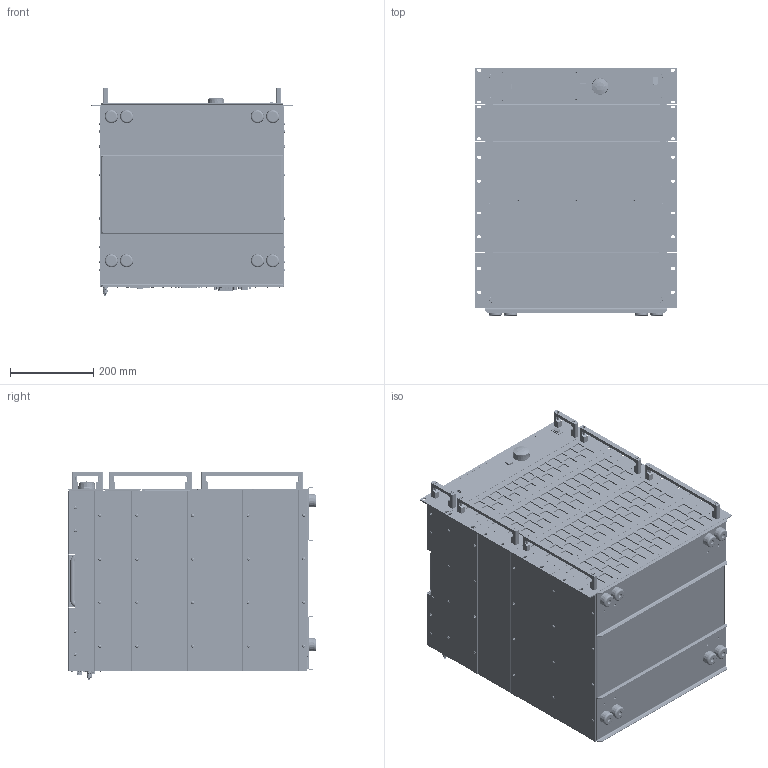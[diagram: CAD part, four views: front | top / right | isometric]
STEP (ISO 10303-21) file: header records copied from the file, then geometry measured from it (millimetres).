
FILE_DESCRIPTION(('STEP AP214'),'1');
FILE_NAME('ACL_M11_19Z_13HE_PH3_15_ST125_BRA_3D_02.step','2020-02-20T10:03:56',(' '),(' '),'Spatial InterOp 3D',' ',' ');
FILE_SCHEMA(('AUTOMOTIVE_DESIGN { 1 0 10303 214 1 1 1 1 }'));
Length unit declared in the file: millimetre
Products named in the file (27): *U385; *U386; *U387; *U388; *U389; *U390; *U391; *U422; 2078_ACL_IO Panel_02; 2085_ACL_Rückwand_Steuerteil_Single_Phase_mit_Druck_3D_02; *U423; *U290; *U291; *U292; *U296; *U297; *U298; 2073_Seitenteil_2HE_3D_01; 2081_Frontplatte_Leistungsteil_2HE_3D_01; 2075_Rückwand_Leistungsteil_2HE_3D_01; 2076_ACL_2HE_Seitenprofil_links_3D_01; 2077_ACL_2HE_Seitenprofil_rechts_3D_01; *U305; *U306; *U307; AutoCreatedBlock_2312
Assembly tree (138 placements, depth 2):
  (unnamed)
    *U385  x2
    *U386
    *U387  x3
    *U388  x2
    *U389  x2
    *U390  x13
    *U391  x16
    *U422  x2
    2078_ACL_IO Panel_02
    2085_ACL_Rückwand_Steuerteil_Single_Phase_mit_Druck_3D_02
    *U423  x4
    *U290  x8
    *U291  x6
    *U292  x8
    *U296  x16
    *U297  x12
    *U298  x16
    2073_Seitenteil_2HE_3D_01  x2
    2081_Frontplatte_Leistungsteil_2HE_3D_01
    2075_Rückwand_Leistungsteil_2HE_3D_01
    2076_ACL_2HE_Seitenprofil_links_3D_01
    2077_ACL_2HE_Seitenprofil_rechts_3D_01
    *U305  x6
    *U306  x8
    *U307  x4
    AutoCreatedBlock_2312
Bounding box: 482.61 x 594.73 x 497.9 mm (x, y, z)
Volume: 3921298 mm3; surface area: 5954437.2 mm2
Topology: 332 solids, 464 shells, 24894 faces, 62407 edges, 39013 vertices
Faces by surface type: plane 11714, cone 8453, cylinder 4042, sphere 278, torus 205, bspline 202
Entity records: 777261 total; most frequent: CARTESIAN_POINT 137901, DIRECTION 100022, ORIENTED_EDGE 97552, EDGE_CURVE 49053, LINE 34798, VECTOR 34798, AXIS2_PLACEMENT_3D 32612, VERTEX_POINT 31033
